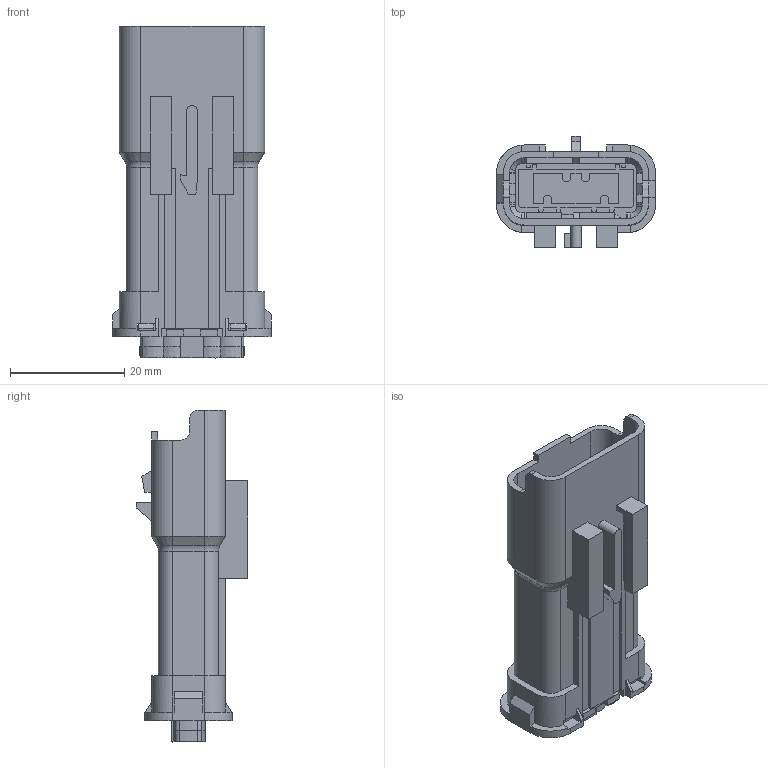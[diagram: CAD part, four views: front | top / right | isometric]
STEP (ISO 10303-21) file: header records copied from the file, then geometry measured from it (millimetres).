
FILE_DESCRIPTION(/* description */ (''),/* implementation_level */ '2;1');
FILE_NAME(/* name */ '33511734_ENV10_01.stp',/* time_stamp */ '2020-07-09T21:43:35+05:00',/* author */ (''),/* organization */ (''),/* preprocessor_version */ 'ST-DEVELOPER v16',/* originating_system */ 'SIEMENS PLM Software NX 11.0',/* authorisation */ '');
FILE_SCHEMA (('AP203_CONFIGURATION_CONTROLLED_3D_DESIGN_OF_MECHANICAL_PARTS_AND_ASSEMBLIES_MIM_LF { 1 0 10303 403 2 1 2}'));
Length unit declared in the file: millimetre
Products named in the file (1): qzs53380227A7lan
Bounding box: 27.8 x 19.55 x 58.05 mm (x, y, z)
Volume: 11253.6 mm3; surface area: 7391.5 mm2
Topology: 1 solids, 1 shells, 447 faces, 1292 edges, 841 vertices
Faces by surface type: plane 342, cylinder 77, cone 20, bspline 4, torus 4
Entity records: 15258 total; most frequent: CARTESIAN_POINT 3277, ORIENTED_EDGE 2584, DIRECTION 2355, EDGE_CURVE 1292, LINE 1051, VECTOR 1051, VERTEX_POINT 841, AXIS2_PLACEMENT_3D 652
